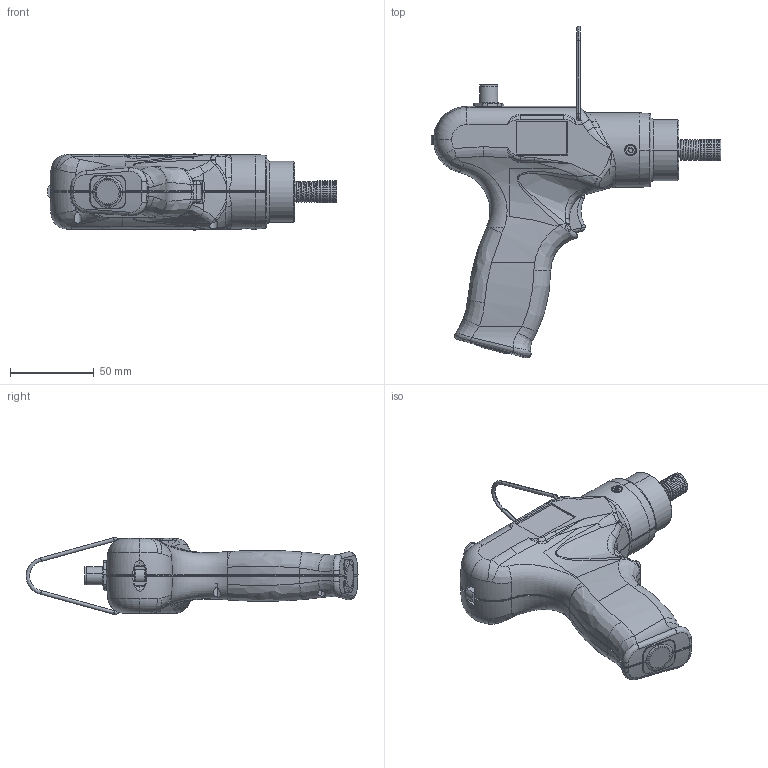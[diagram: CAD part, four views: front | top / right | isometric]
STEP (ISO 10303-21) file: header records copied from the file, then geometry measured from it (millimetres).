
FILE_DESCRIPTION (( 'STEP AP214' ), '1' );
FILE_NAME ('pluto pistola_U alb.10mm.STEP', '2014-05-20T11:54:40', ( 'davide' ), ( '' ), 'SwSTEP 2.0', 'SolidWorks 2014', '' );
FILE_SCHEMA (( 'AUTOMOTIVE_DESIGN' ));
Length unit declared in the file: millimetre
Products named in the file (1): pluto pistola_U alb.10mm
Bounding box: 172.76 x 198.22 x 45.94 mm (x, y, z)
Volume: 177453.8 mm3; surface area: 113550.1 mm2
Topology: 30 solids, 30 shells, 2848 faces, 7200 edges, 4453 vertices
Faces by surface type: cylinder 876, plane 737, cone 573, bspline 542, torus 118, sphere 2
Entity records: 183155 total; most frequent: CARTESIAN_POINT 88843, ORIENTED_EDGE 14320, DIRECTION 11365, EDGE_CURVE 7160, VERTEX_POINT 4450, AXIS2_PLACEMENT_3D 4424, EDGE_LOOP 2966, UNCERTAINTY_MEASURE_WITH_UNIT 2880
